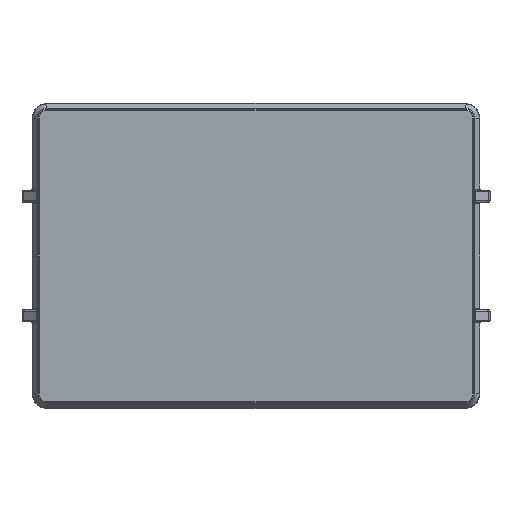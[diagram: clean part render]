
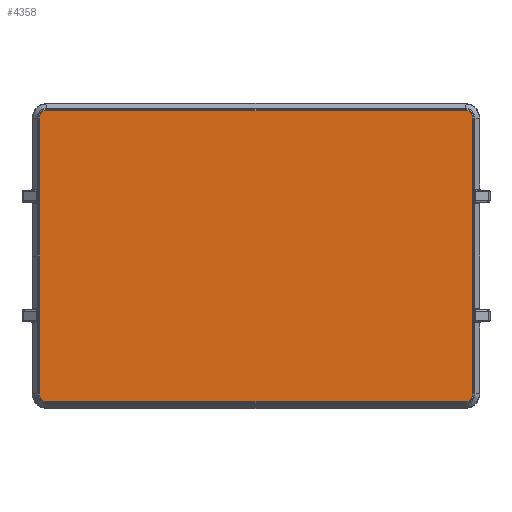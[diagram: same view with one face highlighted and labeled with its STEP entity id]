
A CAD part, front view. The second image highlights one B-rep face of the part: STEP entity #4358.
In plain terms, the highlighted planar face has unit normal (0, -1, 0).
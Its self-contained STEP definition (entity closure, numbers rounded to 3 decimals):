
#293 = DIRECTION ( 'NONE',  ( 0., 1., 0. ) ) ;
#372 = EDGE_CURVE ( 'NONE', #6246, #4834, #6859, .T. ) ;
#982 = ORIENTED_EDGE ( 'NONE', *, *, #7093, .T. ) ;
#1549 = EDGE_CURVE ( 'NONE', #9229, #3755, #4243, .T. ) ;
#1599 = DIRECTION ( 'NONE',  ( 1., 0., 0. ) ) ;
#1705 = ORIENTED_EDGE ( 'NONE', *, *, #1549, .T. ) ;
#1758 = CARTESIAN_POINT ( 'NONE',  ( 88., -79., -61.334 ) ) ;
#1949 = PLANE ( 'NONE',  #9227 ) ;
#1990 = CARTESIAN_POINT ( 'NONE',  ( -88., -79., -61.334 ) ) ;
#2100 = VECTOR ( 'NONE', #10781, 1000. ) ;
#2232 = DIRECTION ( 'NONE',  ( 0., 0., 1. ) ) ;
#2246 = VERTEX_POINT ( 'NONE', #1758 ) ;
#2332 = LINE ( 'NONE', #9679, #7579 ) ;
#2419 = CARTESIAN_POINT ( 'NONE',  ( -91.334, -79., 58. ) ) ;
#2464 = ORIENTED_EDGE ( 'NONE', *, *, #2833, .T. ) ;
#2555 = DIRECTION ( 'NONE',  ( 1., 0., 0. ) ) ;
#2719 = CARTESIAN_POINT ( 'NONE',  ( -91.334, -79., 0. ) ) ;
#2729 = ORIENTED_EDGE ( 'NONE', *, *, #2942, .T. ) ;
#2781 = EDGE_CURVE ( 'NONE', #5741, #8628, #3163, .T. ) ;
#2833 = EDGE_CURVE ( 'NONE', #7006, #6246, #5561, .T. ) ;
#2940 = CARTESIAN_POINT ( 'NONE',  ( 91.334, -79., -58. ) ) ;
#2942 = EDGE_CURVE ( 'NONE', #8628, #4539, #3511, .T. ) ;
#3163 = LINE ( 'NONE', #10623, #7936 ) ;
#3435 = DIRECTION ( 'NONE',  ( 0., -1., 0. ) ) ;
#3481 = DIRECTION ( 'NONE',  ( 0., 0., -1. ) ) ;
#3511 = CIRCLE ( 'NONE', #9162, 3.334 ) ;
#3535 = DIRECTION ( 'NONE',  ( -1., 0., 0. ) ) ;
#3568 = CARTESIAN_POINT ( 'NONE',  ( 91.334, -79., 58. ) ) ;
#3649 = DIRECTION ( 'NONE',  ( 0., 0., 1. ) ) ;
#3711 = ORIENTED_EDGE ( 'NONE', *, *, #372, .T. ) ;
#3746 = LINE ( 'NONE', #9110, #8066 ) ;
#3755 = VERTEX_POINT ( 'NONE', #2419 ) ;
#3758 = EDGE_LOOP ( 'NONE', ( #2464, #3711, #9380, #982, #7974, #2729, #6387, #1705, #9280 ) ) ;
#3791 = CARTESIAN_POINT ( 'NONE',  ( -91.334, -79., -58. ) ) ;
#4243 = CIRCLE ( 'NONE', #9901, 3.334 ) ;
#4308 = CARTESIAN_POINT ( 'NONE',  ( -88., -79., -58. ) ) ;
#4358 = ADVANCED_FACE ( 'NONE', ( #10340 ), #1949, .F. ) ;
#4539 = VERTEX_POINT ( 'NONE', #9069 ) ;
#4834 = VERTEX_POINT ( 'NONE', #1990 ) ;
#4882 = EDGE_CURVE ( 'NONE', #4834, #2246, #3746, .T. ) ;
#4951 = DIRECTION ( 'NONE',  ( 0., -1., 0. ) ) ;
#4991 = CARTESIAN_POINT ( 'NONE',  ( -91.334, -79., 58. ) ) ;
#5329 = CARTESIAN_POINT ( 'NONE',  ( -91.334, -79., 0. ) ) ;
#5561 = LINE ( 'NONE', #9909, #2100 ) ;
#5600 = CARTESIAN_POINT ( 'NONE',  ( 88., -79., -58. ) ) ;
#5714 = DIRECTION ( 'NONE',  ( 0., 0., -1. ) ) ;
#5741 = VERTEX_POINT ( 'NONE', #2940 ) ;
#5897 = CARTESIAN_POINT ( 'NONE',  ( -88., -79., 58. ) ) ;
#5936 = CARTESIAN_POINT ( 'NONE',  ( 88., -79., 58. ) ) ;
#6185 = VECTOR ( 'NONE', #3481, 1000. ) ;
#6246 = VERTEX_POINT ( 'NONE', #3791 ) ;
#6387 = ORIENTED_EDGE ( 'NONE', *, *, #8065, .T. ) ;
#6859 = CIRCLE ( 'NONE', #8973, 3.334 ) ;
#7006 = VERTEX_POINT ( 'NONE', #2719 ) ;
#7093 = EDGE_CURVE ( 'NONE', #2246, #5741, #10115, .T. ) ;
#7579 = VECTOR ( 'NONE', #8038, 1000. ) ;
#7667 = DIRECTION ( 'NONE',  ( 0., 0., 1. ) ) ;
#7936 = VECTOR ( 'NONE', #2232, 1000. ) ;
#7974 = ORIENTED_EDGE ( 'NONE', *, *, #2781, .T. ) ;
#8038 = DIRECTION ( 'NONE',  ( -1., 0., 0. ) ) ;
#8065 = EDGE_CURVE ( 'NONE', #4539, #9229, #2332, .T. ) ;
#8066 = VECTOR ( 'NONE', #1599, 1000. ) ;
#8628 = VERTEX_POINT ( 'NONE', #3568 ) ;
#8973 = AXIS2_PLACEMENT_3D ( 'NONE', #4308, #10218, #3535 ) ;
#9069 = CARTESIAN_POINT ( 'NONE',  ( 88., -79., 61.334 ) ) ;
#9077 = CARTESIAN_POINT ( 'NONE',  ( -88., -79., 61.334 ) ) ;
#9110 = CARTESIAN_POINT ( 'NONE',  ( -88., -79., -61.334 ) ) ;
#9162 = AXIS2_PLACEMENT_3D ( 'NONE', #5936, #3435, #2555 ) ;
#9227 = AXIS2_PLACEMENT_3D ( 'NONE', #5329, #293, #3649 ) ;
#9229 = VERTEX_POINT ( 'NONE', #9077 ) ;
#9280 = ORIENTED_EDGE ( 'NONE', *, *, #9408, .T. ) ;
#9350 = LINE ( 'NONE', #4991, #6185 ) ;
#9380 = ORIENTED_EDGE ( 'NONE', *, *, #4882, .T. ) ;
#9408 = EDGE_CURVE ( 'NONE', #3755, #7006, #9350, .T. ) ;
#9585 = AXIS2_PLACEMENT_3D ( 'NONE', #5600, #9738, #5714 ) ;
#9679 = CARTESIAN_POINT ( 'NONE',  ( 88., -79., 61.334 ) ) ;
#9738 = DIRECTION ( 'NONE',  ( 0., -1., 0. ) ) ;
#9901 = AXIS2_PLACEMENT_3D ( 'NONE', #5897, #4951, #7667 ) ;
#9909 = CARTESIAN_POINT ( 'NONE',  ( -91.334, -79., 0. ) ) ;
#10115 = CIRCLE ( 'NONE', #9585, 3.334 ) ;
#10218 = DIRECTION ( 'NONE',  ( 0., -1., 0. ) ) ;
#10340 = FACE_OUTER_BOUND ( 'NONE', #3758, .T. ) ;
#10623 = CARTESIAN_POINT ( 'NONE',  ( 91.334, -79., -58. ) ) ;
#10781 = DIRECTION ( 'NONE',  ( 0., 0., -1. ) ) ;
